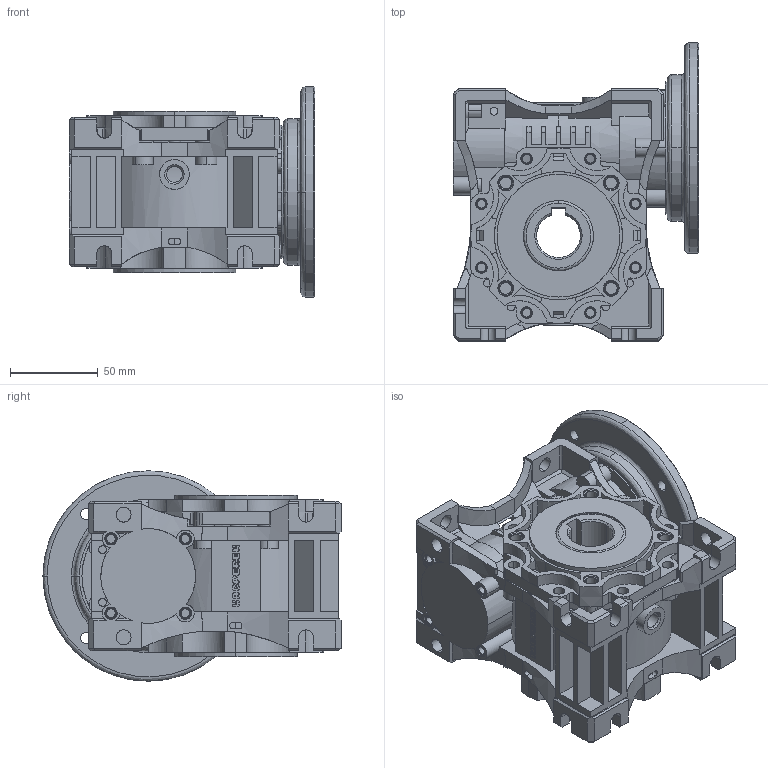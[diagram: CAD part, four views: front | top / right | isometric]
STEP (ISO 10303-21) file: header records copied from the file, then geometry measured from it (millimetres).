
FILE_DESCRIPTION (( 'STEP AP203' ), '1' );
FILE_NAME ('TM-050_120-19.STEP', '2023-03-21T08:23:30', ( '' ), ( '' ), 'SwSTEP 2.0', 'SolidWorks 2022', '' );
FILE_SCHEMA (( 'CONFIG_CONTROL_DESIGN' ));
Products named in the file (1): TM-050_120-19
Bounding box: 140 x 170 x 120 mm (x, y, z)
Surface area: 186116.9 mm2 (no closed solid volume)
Topology: 0 solids, 44 shells, 1615 faces, 4327 edges, 2844 vertices
Faces by surface type: plane 818, cylinder 696, cone 78, bspline 18, torus 5
Entity records: 66569 total; most frequent: CARTESIAN_POINT 32547, ORIENTED_EDGE 8546, DIRECTION 4548, EDGE_CURVE 4325, B_SPLINE_CURVE_WITH_KNOTS 3352, VERTEX_POINT 2844, AXIS2_PLACEMENT_3D 1999, EDGE_LOOP 1775
